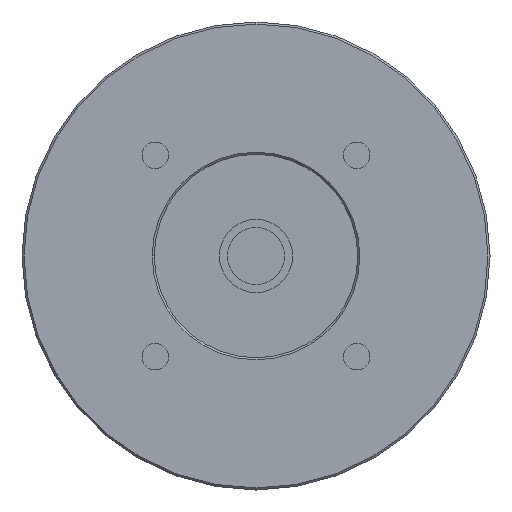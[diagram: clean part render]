
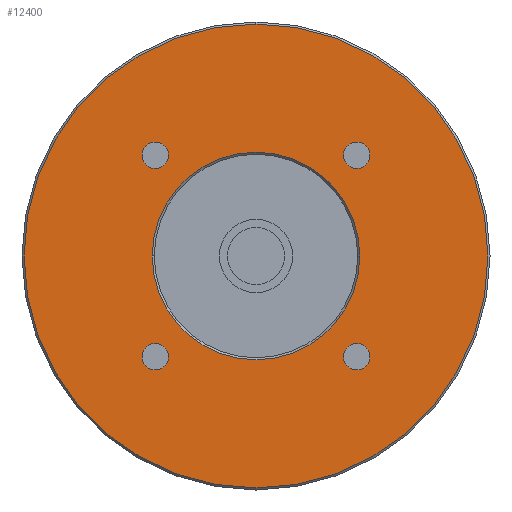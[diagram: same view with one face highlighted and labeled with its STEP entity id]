
A CAD part, left-side view. The second image highlights one B-rep face of the part: STEP entity #12400.
In plain terms, the highlighted planar face has unit normal (-1, 0, 0) as drawn and (0, 0, -1) by its records, which use the part's own axes.
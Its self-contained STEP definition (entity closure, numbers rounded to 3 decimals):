
#9260=CARTESIAN_POINT('',(-21.499,-24.749,-47.));
#9270=VERTEX_POINT('',#9260);
#9300=CARTESIAN_POINT('',(-24.749,-24.749,-47.));
#9310=DIRECTION('',(0.,0.,-1.));
#9320=DIRECTION('',(1.,0.,0.));
#9330=AXIS2_PLACEMENT_3D('',#9300,#9310,#9320);
#9340=CIRCLE('',#9330,3.25);
#9350=CARTESIAN_POINT('',(-27.999,-24.749,-47.));
#9360=VERTEX_POINT('',#9350);
#9370=EDGE_CURVE('',#9360,#9270,#9340,.T.);
#11330=CARTESIAN_POINT('',(0.,57.,-47.));
#11340=VERTEX_POINT('',#11330);
#11370=CARTESIAN_POINT('',(0.,0.,
-47.));
#11380=DIRECTION('',(0.,0.,-1.));
#11390=DIRECTION('',(1.,0.,0.));
#11400=AXIS2_PLACEMENT_3D('',#11370,#11380,#11390);
#11410=CIRCLE('',#11400,57.);
#11420=CARTESIAN_POINT('',(57.,0.,-47.));
#11430=VERTEX_POINT('',#11420);
#11440=EDGE_CURVE('',#11340,#11430,#11410,.T.);
#11460=CARTESIAN_POINT('',(0.,-57.,-47.));
#11470=VERTEX_POINT('',#11460);
#11480=EDGE_CURVE('',#11430,#11470,#11410,.T.);
#11640=CARTESIAN_POINT('',(0.,0.,
-47.));
#11650=DIRECTION('',(0.,0.,-1.));
#11660=DIRECTION('',(1.,0.,0.));
#11670=AXIS2_PLACEMENT_3D('',#11640,#11650,#11660);
#11680=PLANE('',#11670);
#11690=EDGE_CURVE('',#11470,#11340,#11410,.T.);
#11700=ORIENTED_EDGE('',*,*,#11690,.T.);
#11710=ORIENTED_EDGE('',*,*,#11480,.T.);
#11720=ORIENTED_EDGE('',*,*,#11440,.T.);
#11730=EDGE_LOOP('',(#11720,#11710,#11700));
#11740=FACE_OUTER_BOUND('',#11730,.T.);
#11750=CARTESIAN_POINT('',(0.,0.,
-47.));
#11760=DIRECTION('',(0.,0.,-1.));
#11770=DIRECTION('',(1.,0.,0.));
#11780=AXIS2_PLACEMENT_3D('',#11750,#11760,#11770);
#11790=CIRCLE('',#11780,25.5);
#11800=CARTESIAN_POINT('',(25.5,0.,-47.));
#11810=VERTEX_POINT('',#11800);
#11820=CARTESIAN_POINT('',(-25.5,0.,-47.));
#11830=VERTEX_POINT('',#11820);
#11840=EDGE_CURVE('',#11810,#11830,#11790,.T.);
#11850=ORIENTED_EDGE('',*,*,#11840,.F.);
#11860=EDGE_CURVE('',#11830,#11810,#11790,.T.);
#11870=ORIENTED_EDGE('',*,*,#11860,.F.);
#11880=EDGE_LOOP('',(#11870,#11850));
#11890=FACE_BOUND('',#11880,.T.);
#11900=CARTESIAN_POINT('',(24.749,-24.749,-47.));
#11910=DIRECTION('',(0.,0.,-1.));
#11920=DIRECTION('',(1.,0.,0.));
#11930=AXIS2_PLACEMENT_3D('',#11900,#11910,#11920);
#11940=CIRCLE('',#11930,3.25);
#11950=CARTESIAN_POINT('',(27.999,-24.749,-47.));
#11960=VERTEX_POINT('',#11950);
#11970=CARTESIAN_POINT('',(21.499,-24.749,-47.));
#11980=VERTEX_POINT('',#11970);
#11990=EDGE_CURVE('',#11960,#11980,#11940,.T.);
#12000=ORIENTED_EDGE('',*,*,#11990,.F.);
#12010=EDGE_CURVE('',#11980,#11960,#11940,.T.);
#12020=ORIENTED_EDGE('',*,*,#12010,.F.);
#12030=EDGE_LOOP('',(#12020,#12000));
#12040=FACE_BOUND('',#12030,.T.);
#12050=CARTESIAN_POINT('',(24.749,24.749,-47.));
#12060=DIRECTION('',(0.,0.,-1.));
#12070=DIRECTION('',(1.,0.,0.));
#12080=AXIS2_PLACEMENT_3D('',#12050,#12060,#12070);
#12090=CIRCLE('',#12080,3.25);
#12100=CARTESIAN_POINT('',(27.999,24.749,-47.));
#12110=VERTEX_POINT('',#12100);
#12120=CARTESIAN_POINT('',(21.499,24.749,-47.));
#12130=VERTEX_POINT('',#12120);
#12140=EDGE_CURVE('',#12110,#12130,#12090,.T.);
#12150=ORIENTED_EDGE('',*,*,#12140,.F.);
#12160=EDGE_CURVE('',#12130,#12110,#12090,.T.);
#12170=ORIENTED_EDGE('',*,*,#12160,.F.);
#12180=EDGE_LOOP('',(#12170,#12150));
#12190=FACE_BOUND('',#12180,.T.);
#12200=CARTESIAN_POINT('',(-24.749,24.749,-47.));
#12210=DIRECTION('',(0.,0.,-1.));
#12220=DIRECTION('',(1.,0.,0.));
#12230=AXIS2_PLACEMENT_3D('',#12200,#12210,#12220);
#12240=CIRCLE('',#12230,3.25);
#12250=CARTESIAN_POINT('',(-21.499,24.749,-47.));
#12260=VERTEX_POINT('',#12250);
#12270=CARTESIAN_POINT('',(-27.999,24.749,-47.));
#12280=VERTEX_POINT('',#12270);
#12290=EDGE_CURVE('',#12260,#12280,#12240,.T.);
#12300=ORIENTED_EDGE('',*,*,#12290,.F.);
#12310=EDGE_CURVE('',#12280,#12260,#12240,.T.);
#12320=ORIENTED_EDGE('',*,*,#12310,.F.);
#12330=EDGE_LOOP('',(#12320,#12300));
#12340=FACE_BOUND('',#12330,.T.);
#12350=EDGE_CURVE('',#9270,#9360,#9340,.T.);
#12360=ORIENTED_EDGE('',*,*,#12350,.F.);
#12370=ORIENTED_EDGE('',*,*,#9370,.F.);
#12380=EDGE_LOOP('',(#12370,#12360));
#12390=FACE_BOUND('',#12380,.T.);
#12400=ADVANCED_FACE('',(#11740,#11890,#12040,#12190,#12340,#12390),
#11680,.T.);
